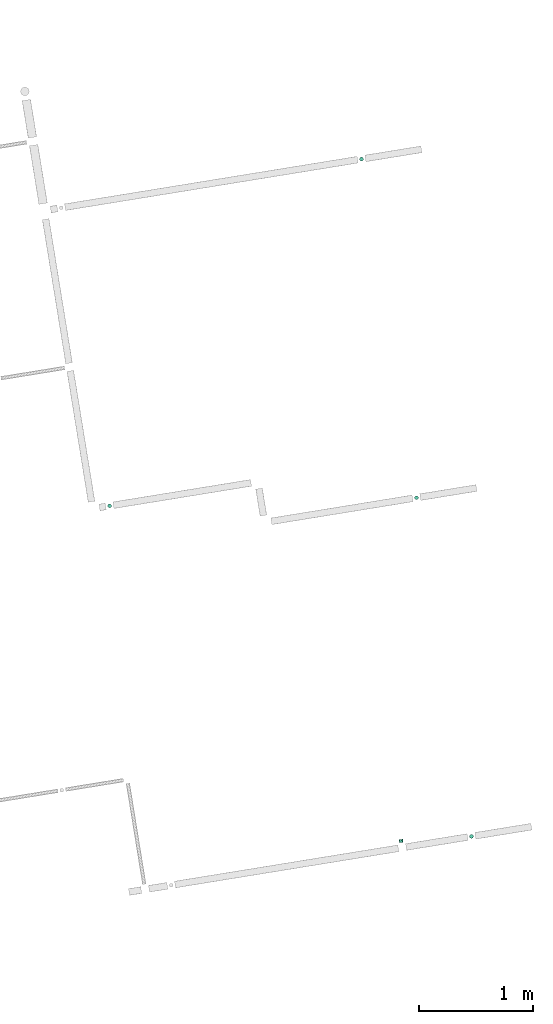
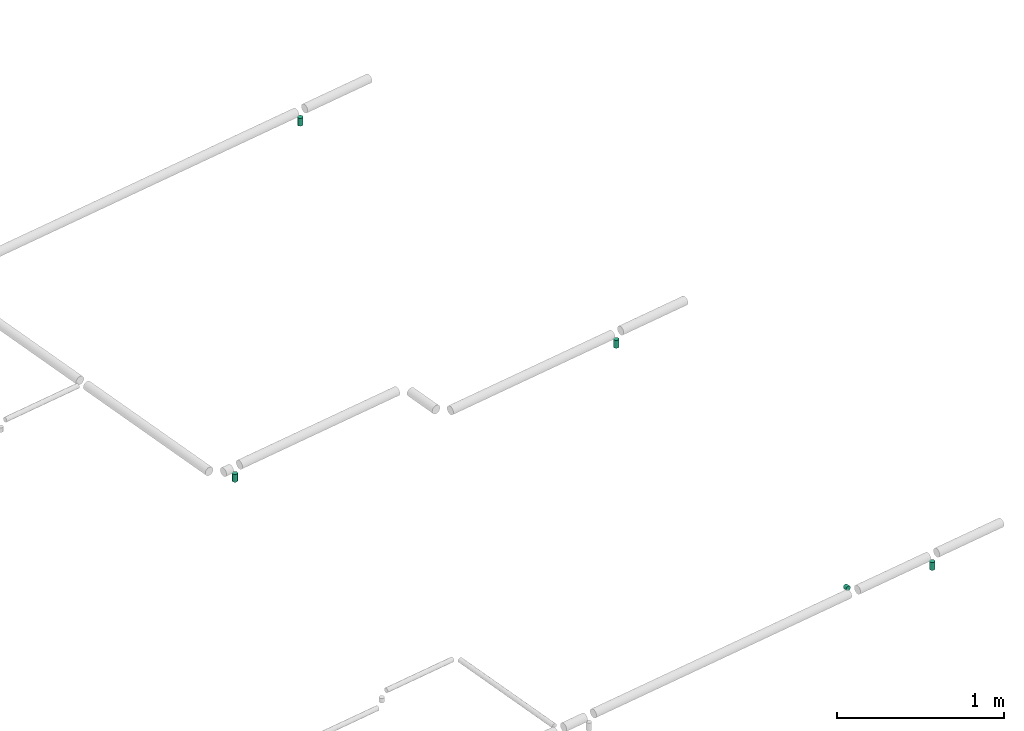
# One storey, part 5 of 10: 5 flow segments.
"""IFC2X3 building model written with IfcOpenShell, lengths in millimetres."""

from ifc_helpers import new_model, entity, si_unit, converted_unit, derived_unit, direction, frame, origin, origin_with_axes, origin_2d_with_axis, place, context, subcontext, project, spatial, circle, extrude, type_object, element, save


model = new_model("IFC2X3")

# Units and contexts
plan_context = context("Plan", 3, precision=1e-05, world=origin_with_axes())
model_context = context("Model", 3, precision=0.01, world=origin(), true_north=direction((6.12323399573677e-17, 1.0)))
body_context = subcontext(model_context, "Body", "Model", "MODEL_VIEW")
ifc_project = project(units=[converted_unit("PLANEANGLEUNIT", "DEGREE", entity("IfcPositiveLengthMeasure", 0.0174532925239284), si_unit("PLANEANGLEUNIT", "RADIAN"), dimensions=[0, 0, 0, 0, 0, 0, 0]), si_unit("AREAUNIT", "SQUARE_METRE"), si_unit("LENGTHUNIT", "METRE", prefix="MILLI"), si_unit("MASSUNIT", "GRAM", prefix="KILO"), si_unit("POWERUNIT", "WATT"), si_unit("PRESSUREUNIT", "PASCAL", prefix="KILO"), si_unit("FORCEUNIT", "NEWTON", prefix="KILO"), si_unit("ELECTRICVOLTAGEUNIT", "VOLT"), si_unit("ELECTRICCURRENTUNIT", "AMPERE"), si_unit("THERMODYNAMICTEMPERATUREUNIT", "DEGREE_CELSIUS"), si_unit("TIMEUNIT", "SECOND"), si_unit("VOLUMEUNIT", "CUBIC_METRE"), derived_unit("LINEARVELOCITYUNIT", [(si_unit("LENGTHUNIT", "METRE"), 1), (si_unit("TIMEUNIT", "SECOND"), -1)]), derived_unit("VOLUMETRICFLOWRATEUNIT", [(si_unit("VOLUMEUNIT", "CUBIC_METRE"), 1), (si_unit("TIMEUNIT", "SECOND"), -1)]), derived_unit("THERMALTRANSMITTANCEUNIT", [(si_unit("POWERUNIT", "WATT"), 1), (si_unit("THERMODYNAMICTEMPERATUREUNIT", "KELVIN"), -1), (si_unit("AREAUNIT", "SQUARE_METRE"), -1)]), derived_unit("SOUNDPRESSUREUNIT", [(si_unit("PRESSUREUNIT", "PASCAL"), 1)])], contexts=[model_context, plan_context])

# Site, building, storey
site_placement = place(None, frame((-0.00071070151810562, 0.00438415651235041, 0.0), z_axis=(0.0, 0.0, 1.0), x_axis=(-0.160236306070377, 0.987078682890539, 0.0)))
site = spatial("IfcSite", under=ifc_project, at=site_placement, Name="Default", CompositionType="ELEMENT")
building_placement = place(site_placement, origin_with_axes())
building = spatial("IfcBuilding", under=site, at=building_placement, CompositionType="ELEMENT")
storey_placement = place(building_placement, frame((0.0, 0.0, 55630.0), z_axis=(0.0, 0.0, 1.0), x_axis=(1.0, 0.0, 0.0)))
storey = spatial("IfcBuildingStorey", under=building, at=storey_placement, Name="Nivå E", CompositionType="ELEMENT", Elevation=55630.0)

# Flow segments
pipe_segment_type = type_object("IfcPipeSegmentType", Name="Pipe Types:Stålrør normaltykke", PredefinedType="NOTDEFINED")
flow_segment_1_placement = place(storey_placement, origin_with_axes())
element("IfcFlowSegment", 1, at=flow_segment_1_placement, inside=storey, type_object=pipe_segment_type, Name="Pipe Types:Stålrør normaltykke", ObjectType="Pipe Types:Stålrør normaltykke", context=body_context, shape_type="SweptSolid", body=[
    extrude(circle(Radius=16.8500004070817, at=origin_2d_with_axis()), frame((763377.619644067, -508678.477242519, 2496.95200000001)), (0.0, 0.0, 1.0), 57.7479999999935),
])
flow_segment_2_placement = place(storey_placement, origin_with_axes())
element("IfcFlowSegment", 2, at=flow_segment_2_placement, inside=storey, type_object=pipe_segment_type, Name="Pipe Types:Stålrør normaltykke", ObjectType="Pipe Types:Stålrør normaltykke", context=body_context, shape_type="SweptSolid", body=[
    extrude(circle(Radius=16.8500004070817, at=origin_2d_with_axis()), frame((766377.619644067, -508678.477242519, 2496.95200000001)), (0.0, 0.0, 1.0), 57.7479999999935),
])
flow_segment_3_placement = place(storey_placement, origin_with_axes())
element("IfcFlowSegment", 3, at=flow_segment_3_placement, inside=storey, type_object=pipe_segment_type, Name="Pipe Types:Stålrør normaltykke", ObjectType="Pipe Types:Stålrør normaltykke", context=body_context, shape_type="SweptSolid", body=[
    extrude(circle(Radius=16.8500004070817, at=origin_2d_with_axis()), frame((766737.619644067, -506018.477242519, 2496.95200000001)), (0.0, 0.0, 1.0), 57.7480000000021),
])
flow_segment_4_placement = place(storey_placement, origin_with_axes())
element("IfcFlowSegment", 4, at=flow_segment_4_placement, inside=storey, type_object=pipe_segment_type, Name="Pipe Types:Stålrør normaltykke", ObjectType="Pipe Types:Stålrør normaltykke", context=body_context, shape_type="SweptSolid", body=[
    extrude(circle(Radius=16.8500004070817, at=origin_2d_with_axis()), frame((769377.619644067, -508678.477242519, 2496.95200000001)), (0.0, 0.0, 1.0), 57.7479999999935),
])
flow_segment_5_placement = place(storey_placement, origin_with_axes())
element("IfcFlowSegment", 5, at=flow_segment_5_placement, inside=storey, type_object=pipe_segment_type, Name="Pipe Types:Stålrør normaltykke", ObjectType="Pipe Types:Stålrør normaltykke", context=body_context, shape_type="SweptSolid", body=[
    extrude(circle(Radius=16.8500004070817, at=origin_2d_with_axis()), frame((763422.919644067, -508065.24440294, 2600.0), z_axis=(1.0, 0.0, 0.0), x_axis=(0.0, -1.0, 0.0)), (0.0, 0.0, 1.0), 27.5409516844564),
])

save(model, "model.ifc")
